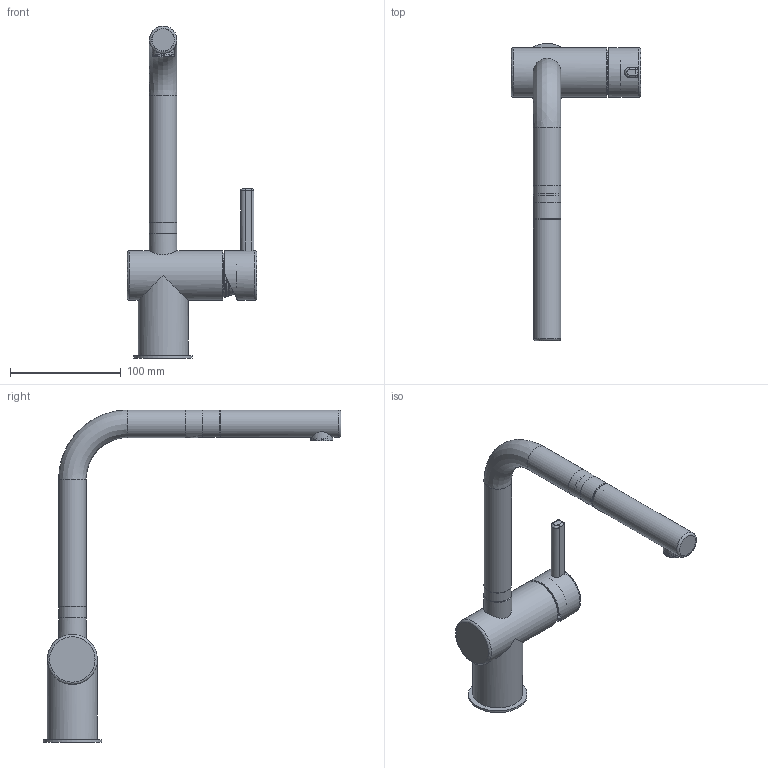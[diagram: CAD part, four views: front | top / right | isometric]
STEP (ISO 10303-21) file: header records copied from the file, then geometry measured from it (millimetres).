
FILE_DESCRIPTION(/* description */ (''),/* implementation_level */ '2;1');
FILE_NAME(/* name */ '3D001_Taps_Atlas-Neo_Pull-Out',/* time_stamp */ '2024-01-30T12:10:34+01:00',/* author */ (''),/* organization */ (''),/* preprocessor_version */ 'ST-DEVELOPER v19.2',/* originating_system */ 'Rhino 8.3',/* authorisation */ '');
FILE_SCHEMA (('CONFIG_CONTROL_DESIGN'));
Length unit declared in the file: millimetre
Products named in the file (28): Document; 190004111; 190008219; 190004099; 190006295; 25shower; 190014619; 190014509-3.16-A1; 190014629; 190014505; 190014628; handle Assembly; handle; 190014532---T12139把手筒(无红蓝点); 190014532-中间方孔; handle bar; M6 Screw; M6 Nut; M5 Screw; 190013018; 190004083; FAXIN; 190014909; 190014620; 190001340; 190004090; 190014515---抽拉定位塑料套; 190014642
Bounding box: 117.13 x 269 x 299.7 mm (x, y, z)
Volume: 206643.6 mm3; surface area: 164542.5 mm2
Topology: 30 solids, 31 shells, 1129 faces, 2886 edges, 1861 vertices
Faces by surface type: plane 472, bspline 349, cylinder 308
Full cylindrical faces by diameter (mm): 2 x1, 3 x1, 4 x7, 4.25 x1, 4.7 x2, 5 x2, 5.1 x4, 5.2 x6, 5.5 x2, 6 x15, 8 x4, 9.1 x3, 9.3 x2, 9.5 x2, 10.8 x3, 11 x1, 13 x1, 16 x4, 16.1 x1, 16.5 x2, 17.5 x1, 17.9 x3, 18 x1, 18.5 x1, 18.7 x4, 19 x4, 19.5 x2, 19.8 x1, 19.9 x2, 19.95 x1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
Entity records: 67267 total; most frequent: CARTESIAN_POINT 41856, ORIENTED_EDGE 5755, EDGE_CURVE 2879, DIRECTION 2660, B_SPLINE_CURVE_WITH_KNOTS 1953, VERTEX_POINT 1860, AXIS2_PLACEMENT_3D 1720, EDGE_LOOP 1235
